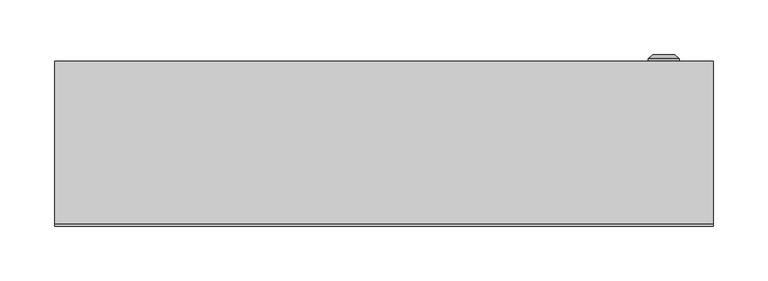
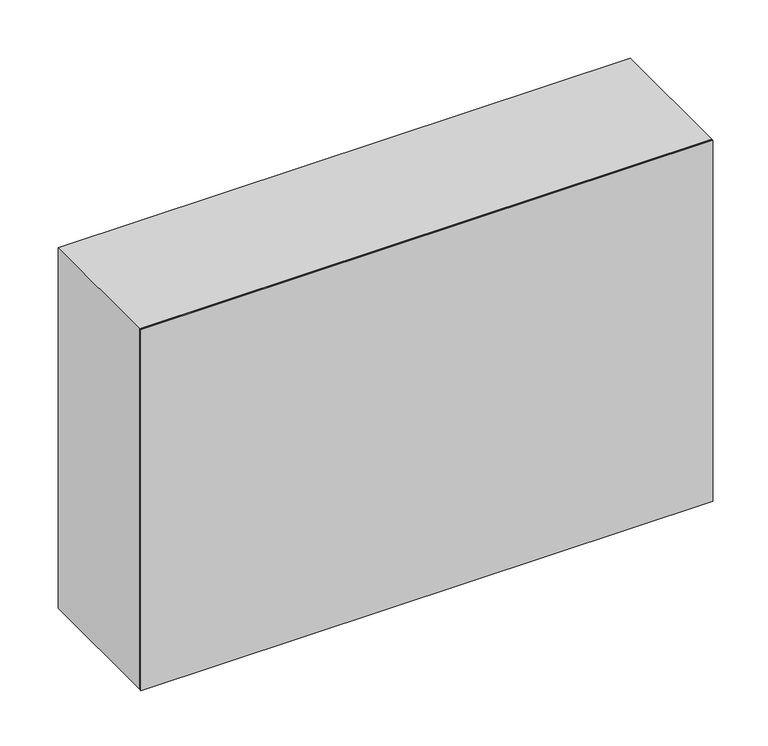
"""IFC4 building model written with IfcOpenShell, lengths in millimetres: proxy geometry, ЩМП : ЩМП-4.6.1-0_400х600х150."""

from ifc_helpers import new_model, si_unit, frame, origin, origin_with_axes, place, context, project, spatial, polyline, circle_curve, outline, extrude, source, transform, mapped, element, save
from ifc_brep_helpers import plane_surface, cylinder_surface, revolved_surface, advanced_brep


def electrical_equipment_989aeedd(model_context):
    return source(origin(), model_context, "Body", "SolidModel", [
        advanced_brep(
        [(240.669873, 150.0, 200.0), (269.330127, 150.0, 200.0), (255.0, 150.0, 200.0), (240.669873, 152.366592, 200.0), (269.330127, 152.366592, 200.0), (245.0, 156.0, 200.0), (265.0, 156.0, 200.0), (253.1080471, 156.0, 200.0), (256.8919529, 156.0, 200.0), (253.1080471, 154.9822294, 200.0), (256.8919529, 154.9822294, 200.0), (255.0, 154.9822294, 200.0)],
        [
            (0, 1, circle_curve(frame((255.0, 150.0, 200.0), z_axis=(0.0, -1.0, 0.0), x_axis=(1.0, 0.0, 0.0)), 14.330127)),
            (1, 2),
            (2, 0),
            (1, 0, circle_curve(frame((255.0, 150.0, 200.0), z_axis=(0.0, -1.0, 0.0), x_axis=(1.0, 0.0, 0.0)), 14.330127)),
            (3, 4, circle_curve(frame((255.0, 152.366592, 200.0), z_axis=(0.0, -1.0, 0.0), x_axis=(1.0, 0.0, 0.0)), 14.330127)),
            (4, 1),
            (0, 3),
            (4, 3, circle_curve(frame((255.0, 152.366592, 200.0), z_axis=(0.0, -1.0, 0.0), x_axis=(1.0, 0.0, 0.0)), 14.330127)),
            (5, 6, circle_curve(frame((255.0, 156.0, 200.0), z_axis=(0.0, -1.0, 0.0), x_axis=(1.0, 0.0, 0.0)), 10.0)),
            (6, 4),
            (3, 5),
            (6, 5, circle_curve(frame((255.0, 156.0, 200.0), z_axis=(0.0, -1.0, 0.0), x_axis=(1.0, 0.0, 0.0)), 10.0)),
            (7, 8, circle_curve(frame((255.0, 156.0, 200.0), z_axis=(0.0, -1.0, 0.0), x_axis=(1.0, 0.0, 0.0)), 1.8919529)),
            (8, 6),
            (5, 7),
            (8, 7, circle_curve(frame((255.0, 156.0, 200.0), z_axis=(0.0, -1.0, 0.0), x_axis=(1.0, 0.0, 0.0)), 1.8919529)),
            (9, 10, circle_curve(frame((255.0, 154.9822294, 200.0), z_axis=(0.0, -1.0, 0.0), x_axis=(1.0, 0.0, 0.0)), 1.8919529)),
            (10, 8),
            (7, 9),
            (10, 9, circle_curve(frame((255.0, 154.9822294, 200.0), z_axis=(0.0, -1.0, 0.0), x_axis=(1.0, 0.0, 0.0)), 1.8919529)),
            (11, 10),
            (9, 11),
        ],
        [
            plane_surface(frame((255.0, 150.0, 200.0), z_axis=(0.0, -1.0, 0.0), x_axis=(1.0, 0.0, 0.0))),
            cylinder_surface(frame((255.0, 163.1348851, 200.0), z_axis=(0.0, 1.0, 0.0), x_axis=(1.0, 0.0, 0.0)), 14.330127),
            revolved_surface(polyline([(269.330127, 152.366592, 200.0), (265.0, 156.0, 200.0)]), (255.0, 163.1348851, 200.0), (0.0, 1.0, 0.0)),
            plane_surface(frame((255.0, 156.0, 200.0), z_axis=(0.0, 1.0, 0.0), x_axis=(1.0, 0.0, 0.0))),
            revolved_surface(polyline([(256.8919529, 156.0, 200.0), (256.8919529, 154.9822294, 200.0)]), (255.0, 163.1348851, 200.0), (0.0, 1.0, 0.0)),
            plane_surface(frame((255.0, 154.9822294, 200.0), z_axis=(0.0, 1.0, 0.0), x_axis=(1.0, 0.0, 0.0))),
        ],
        [
            (0, [[1, 2, 3]]),
            (0, [[4, -3, -2]]),
            (1, [[5, 6, -1, 7]]),
            (1, [[8, -7, -4, -6]]),
            (2, [[9, 10, -5, 11]]),
            (2, [[12, -11, -8, -10]]),
            (3, [[13, 14, -9, 15]]),
            (3, [[16, -15, -12, -14]]),
            (4, [[17, 18, -13, 19]]),
            (4, [[20, -19, -16, -18]]),
            (5, [[21, -17, 22]]),
            (5, [[-22, -20, -21]]),
        ],
    ),
        extrude(outline(polyline([(281.5, 125.0), (-281.5, 125.0), (-281.5, 150.0), (281.5, 150.0), (281.5, 125.0)])), frame((0.0, 0.0, 18.5), z_axis=(0.0, 0.0, 1.0), x_axis=(1.0, 0.0, 0.0)), (0.0, 0.0, 1.0), 363.0),
        extrude(outline(polyline([(400.0, -300.0033905), (0.0, -300.0033905), (0.0, 299.9966095), (400.0, 299.9966095), (400.0, -300.0033905)]), holes=[polyline([(365.0, -265.0033905), (365.0, 264.9966095), (35.0, 264.9966095), (35.0, -265.0033905), (365.0, -265.0033905)])]), frame((0.0, 2.0, 0.0), z_axis=(0.0, 1.0, 0.0), x_axis=(0.0, 0.0, 1.0)), (0.0, 0.0, 1.0), 148.0),
        extrude(outline(polyline([(300.0, 0.0), (-300.0, 0.0), (-300.0, 2.0), (300.0, 2.0), (300.0, 0.0)])), origin_with_axes(), (0.0, 0.0, 1.0), 400.0),
    ])


if __name__ == "__main__":
    model = new_model("IFC4")
    model_context = context("Model", 3, world=origin())
    ifc_project = project(units=[si_unit("LENGTHUNIT", "METRE", prefix="MILLI")], contexts=[model_context])
    site = spatial("IfcSite", under=ifc_project)
    building = spatial("IfcBuilding", under=site)
    placement = place(None, origin())
    electrical_equipment_shape = electrical_equipment_989aeedd(model_context)
    element("IfcBuildingElementProxy", 1, Name="ЩМП : ЩМП-4.6.1-0_400х600х150", ObjectType="ЩМП : ЩМП-4.6.1-0_400х600х150", at=placement, inside=building, context=model_context, shape_type="MappedRepresentation", body=[
        mapped(electrical_equipment_shape, transform((0.0, 0.0, 0.0), x_axis=(1.0, 0.0, 0.0), y_axis=(0.0, 1.0, 0.0), z_axis=(0.0, 0.0, 1.0))),
    ])
    save(model, "model.ifc")
